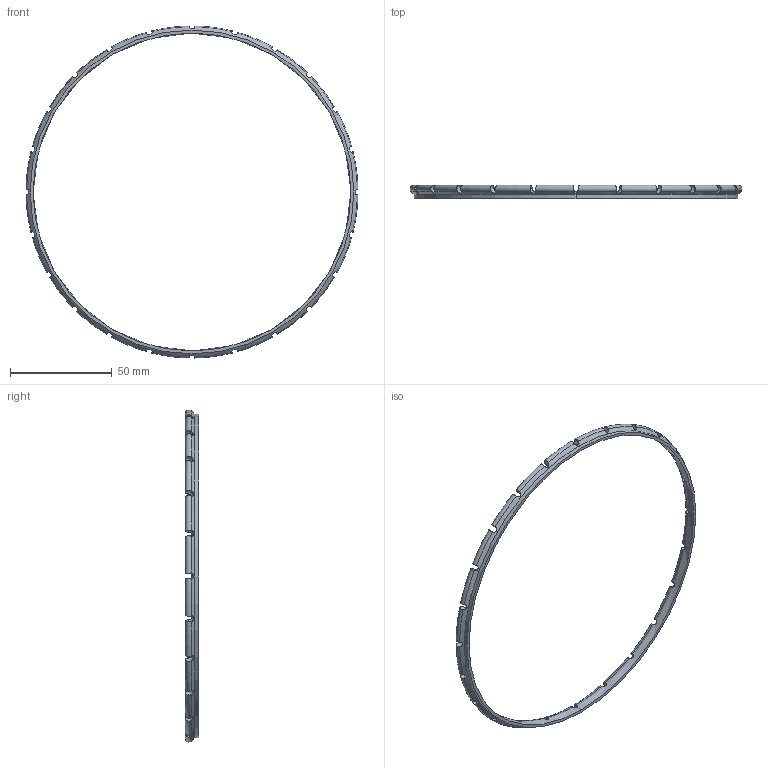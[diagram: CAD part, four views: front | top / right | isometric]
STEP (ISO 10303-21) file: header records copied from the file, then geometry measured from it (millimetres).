
FILE_DESCRIPTION (( 'STEP AP203' ), '1' );
FILE_NAME ('reel-bearing-race.STEP', '2024-11-26T16:27:12', ( '' ), ( '' ), 'SwSTEP 2.0', 'SolidWorks 2022', '' );
FILE_SCHEMA (( 'CONFIG_CONTROL_DESIGN' ));
Length unit declared in the file: millimetre
Products named in the file (1): reel-bearing-race
Bounding box: 163.38 x 6.52 x 163.38 mm (x, y, z)
Volume: 6701.9 mm3; surface area: 8769.3 mm2
Topology: 1 solids, 1 shells, 79 faces, 396 edges, 270 vertices
Faces by surface type: sphere 48, torus 24, cylinder 4, cone 2, plane 1
Entity records: 5237 total; most frequent: CARTESIAN_POINT 3098, ORIENTED_EDGE 504, DIRECTION 370, EDGE_CURVE 252, AXIS2_PLACEMENT_3D 182, VERTEX_POINT 174, B_SPLINE_CURVE_WITH_KNOTS 144, CIRCLE 102
